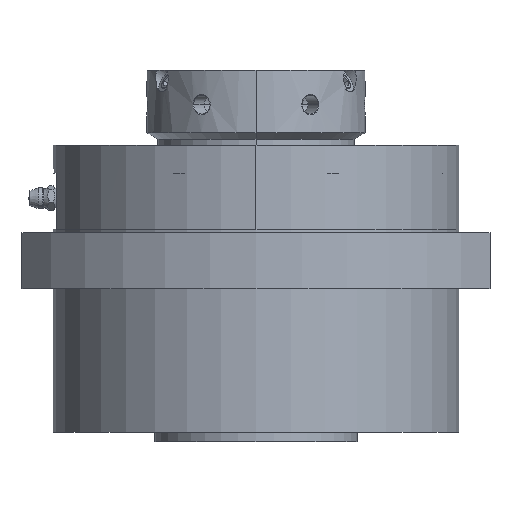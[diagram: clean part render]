
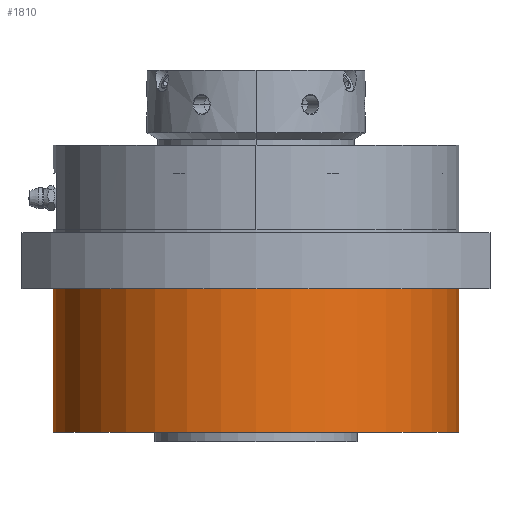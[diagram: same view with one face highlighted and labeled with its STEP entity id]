
A CAD part, front view. The second image highlights one B-rep face of the part: STEP entity #1810.
In plain terms, the highlighted cylindrical face has radius 65 mm (diameter 130 mm), a partial arc.
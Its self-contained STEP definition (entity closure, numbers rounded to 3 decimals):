
#1393 = CARTESIAN_POINT ( 'NONE',  ( 0., 0., 46. ) ) ;
#1810 = ADVANCED_FACE ( 'NONE', ( #13374 ), #22896, .T. ) ;
#1864 = DIRECTION ( 'NONE',  ( 0., 0., 1. ) ) ;
#2472 = ORIENTED_EDGE ( 'NONE', *, *, #21986, .F. ) ;
#4210 = LINE ( 'NONE', #30577, #10791 ) ;
#4377 = DIRECTION ( 'NONE',  ( 0., 0., -1. ) ) ;
#6425 = CARTESIAN_POINT ( 'NONE',  ( -65., 0., 0. ) ) ;
#7443 = CARTESIAN_POINT ( 'NONE',  ( -65., 0., 46. ) ) ;
#8448 = EDGE_CURVE ( 'NONE', #17947, #8836, #9497, .T. ) ;
#8836 = VERTEX_POINT ( 'NONE', #6425 ) ;
#8968 = DIRECTION ( 'NONE',  ( -1., 0., 0. ) ) ;
#9036 = CARTESIAN_POINT ( 'NONE',  ( 65., 0., 0. ) ) ;
#9497 = LINE ( 'NONE', #7443, #29796 ) ;
#9760 = CIRCLE ( 'NONE', #22238, 65. ) ;
#10052 = VERTEX_POINT ( 'NONE', #22802 ) ;
#10791 = VECTOR ( 'NONE', #4377, 1000. ) ;
#13374 = FACE_OUTER_BOUND ( 'NONE', #24373, .T. ) ;
#14713 = AXIS2_PLACEMENT_3D ( 'NONE', #21607, #30735, #16771 ) ;
#14820 = DIRECTION ( 'NONE',  ( 0., 0., -1. ) ) ;
#16771 = DIRECTION ( 'NONE',  ( 1., 0., 0. ) ) ;
#17947 = VERTEX_POINT ( 'NONE', #25082 ) ;
#18207 = DIRECTION ( 'NONE',  ( 0., 0., -1. ) ) ;
#19191 = ORIENTED_EDGE ( 'NONE', *, *, #28435, .F. ) ;
#21607 = CARTESIAN_POINT ( 'NONE',  ( 0., 0., 0. ) ) ;
#21986 = EDGE_CURVE ( 'NONE', #17947, #10052, #9760, .T. ) ;
#22238 = AXIS2_PLACEMENT_3D ( 'NONE', #1393, #1864, #30271 ) ;
#22382 = AXIS2_PLACEMENT_3D ( 'NONE', #27604, #18207, #8968 ) ;
#22802 = CARTESIAN_POINT ( 'NONE',  ( 65., 0., 46. ) ) ;
#22896 = CYLINDRICAL_SURFACE ( 'NONE', #22382, 65. ) ;
#24216 = VERTEX_POINT ( 'NONE', #9036 ) ;
#24373 = EDGE_LOOP ( 'NONE', ( #19191, #2472, #27171, #27481 ) ) ;
#25082 = CARTESIAN_POINT ( 'NONE',  ( -65., 0., 46. ) ) ;
#26685 = CIRCLE ( 'NONE', #14713, 65. ) ;
#27171 = ORIENTED_EDGE ( 'NONE', *, *, #8448, .T. ) ;
#27481 = ORIENTED_EDGE ( 'NONE', *, *, #30458, .T. ) ;
#27604 = CARTESIAN_POINT ( 'NONE',  ( 0., 0., 46. ) ) ;
#28435 = EDGE_CURVE ( 'NONE', #10052, #24216, #4210, .T. ) ;
#29796 = VECTOR ( 'NONE', #14820, 1000. ) ;
#30271 = DIRECTION ( 'NONE',  ( 1., 0., 0. ) ) ;
#30458 = EDGE_CURVE ( 'NONE', #8836, #24216, #26685, .T. ) ;
#30577 = CARTESIAN_POINT ( 'NONE',  ( 65., 0., 46. ) ) ;
#30735 = DIRECTION ( 'NONE',  ( 0., 0., 1. ) ) ;
